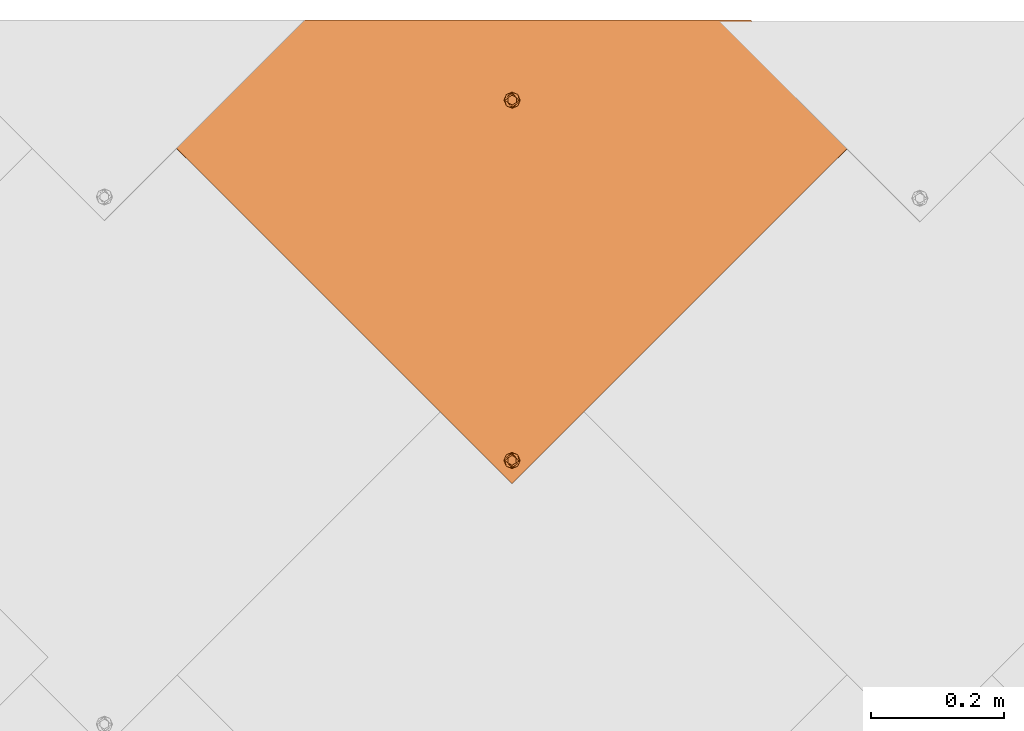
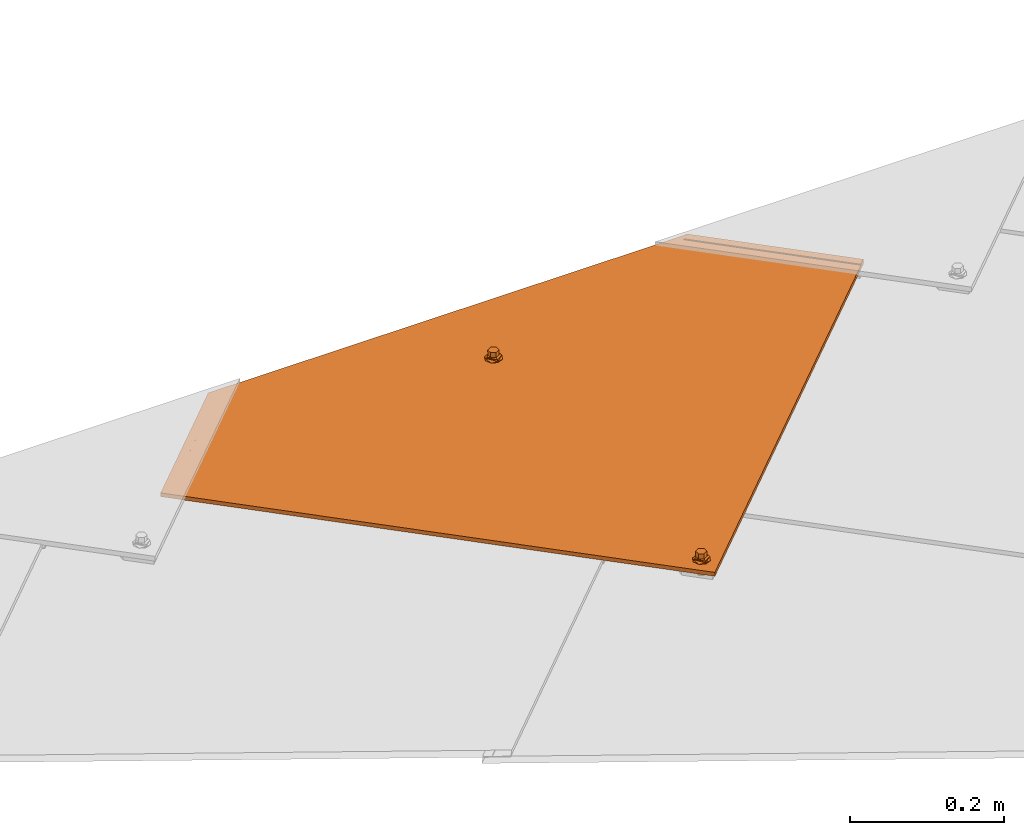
# One storey, part 78 of 133: 1 proxy.
"""IFC2X3 building model written with IfcOpenShell, lengths in millimetres."""

from ifc_helpers import new_model, entity, si_unit, converted_unit, derived_unit, direction, frame, origin, place, context, subcontext, project, spatial, faceted_brep, source, transform, mapped, material, material_list, type_object, type_shapes, element, save


model = new_model("IFC2X3")

# Units and contexts
model_context = context("Model", 3, precision=0.01, world=origin(), true_north=direction((6.12303176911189e-17, 1.0)))
body_context = subcontext(model_context, "Body", "Model", "MODEL_VIEW")
ifc_project = project(units=[si_unit("LENGTHUNIT", "METRE", prefix="MILLI"), si_unit("AREAUNIT", "SQUARE_METRE"), si_unit("VOLUMEUNIT", "CUBIC_METRE"), converted_unit("PLANEANGLEUNIT", "DEGREE", entity("IfcRatioMeasure", 0.0174532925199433), si_unit("PLANEANGLEUNIT", "RADIAN"), dimensions=[0, 0, 0, 0, 0, 0, 0]), si_unit("MASSUNIT", "GRAM", prefix="KILO"), derived_unit("MASSDENSITYUNIT", [(si_unit("MASSUNIT", "GRAM", prefix="KILO"), 1), (si_unit("LENGTHUNIT", "METRE"), -3)]), si_unit("TIMEUNIT", "SECOND"), si_unit("FREQUENCYUNIT", "HERTZ"), si_unit("THERMODYNAMICTEMPERATUREUNIT", "DEGREE_CELSIUS"), derived_unit("THERMALTRANSMITTANCEUNIT", [(si_unit("MASSUNIT", "GRAM", prefix="KILO"), 1), (si_unit("THERMODYNAMICTEMPERATUREUNIT", "KELVIN"), -1), (si_unit("TIMEUNIT", "SECOND"), -3)]), derived_unit("VOLUMETRICFLOWRATEUNIT", [(si_unit("LENGTHUNIT", "METRE"), 3), (si_unit("TIMEUNIT", "SECOND"), -1)]), si_unit("ELECTRICCURRENTUNIT", "AMPERE"), si_unit("ELECTRICVOLTAGEUNIT", "VOLT"), si_unit("POWERUNIT", "WATT"), si_unit("FORCEUNIT", "NEWTON", prefix="KILO"), si_unit("ILLUMINANCEUNIT", "LUX"), si_unit("LUMINOUSFLUXUNIT", "LUMEN"), si_unit("LUMINOUSINTENSITYUNIT", "CANDELA"), derived_unit("USERDEFINED", [(si_unit("MASSUNIT", "GRAM", prefix="KILO"), -1), (si_unit("LENGTHUNIT", "METRE"), -2), (si_unit("TIMEUNIT", "SECOND"), 3), (si_unit("LUMINOUSFLUXUNIT", "LUMEN"), 1)]), derived_unit("LINEARVELOCITYUNIT", [(si_unit("LENGTHUNIT", "METRE"), 1), (si_unit("TIMEUNIT", "SECOND"), -1)]), si_unit("PRESSUREUNIT", "PASCAL"), derived_unit("USERDEFINED", [(si_unit("LENGTHUNIT", "METRE"), -2), (si_unit("MASSUNIT", "GRAM", prefix="KILO"), 1), (si_unit("TIMEUNIT", "SECOND"), -2)])], contexts=[model_context])

# Site, building, storey
site_placement = place(None, origin())
site = spatial("IfcSite", under=ifc_project, at=site_placement, Name="Default", CompositionType="ELEMENT")
building_placement = place(site_placement, origin())
building = spatial("IfcBuilding", under=site, at=building_placement, CompositionType="ELEMENT")
storey_placement = place(building_placement, origin())
storey = spatial("IfcBuildingStorey", under=building, at=storey_placement, Name="Level 1", CompositionType="ELEMENT", Elevation=0.0)

# Proxy
ifc_material_1 = material(Name="Rubber - Sunstyle - Black")
ifc_material_2 = material(Name="Glass - Sunstyle - Tainted Black")
ifc_material_list_1 = material_list([ifc_material_1, ifc_material_2])
ifc_material_list_2 = material_list([ifc_material_1, ifc_material_2])
building_element_proxy_type = type_object("IfcBuildingElementProxyType", Name="Shingle Top - Black", PredefinedType="NOTDEFINED", material=ifc_material_list_2)
shared_shape = source(origin(), body_context, "Body", "Brep", [
    faceted_brep([(-518.396436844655, -96.9865733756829, 16.4476231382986), (-518.396436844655, -96.9614556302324, 17.9474128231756), (-526.881123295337, -88.4767691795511, 17.8053154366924), (-526.881123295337, -88.5018869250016, 16.3055257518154), (-376.996804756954, 61.3404039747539, 13.7960402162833), (-368.512118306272, 52.8557175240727, 13.9381376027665), (-376.996804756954, 61.3655217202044, 15.2958299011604), (-368.512118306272, 52.8808352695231, 15.4379272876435)], [[[0, 1, 2, 3]], [[0, 3, 4, 5]], [[3, 2, 6, 4]], [[2, 1, 7, 6]], [[1, 0, 5, 7]], [[5, 4, 6, 7]]]),
    faceted_brep([(0.166366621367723, -33.6374645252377, -4.47296585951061), (-5.6078362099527, -36.9707346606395, -4.4171418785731), (-5.60783620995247, -36.6024255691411, 17.5747274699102), (0.166366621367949, -33.2691554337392, 17.5189034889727), (-5.60783620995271, -43.6372749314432, -4.30549391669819), (-5.60783620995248, -43.2689658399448, 17.6863754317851), (0.166366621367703, -46.9705450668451, -4.24966993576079), (0.166366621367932, -46.6022359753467, 17.7421994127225), (5.94056945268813, -43.6372749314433, -4.30549391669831), (5.94056945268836, -43.2689658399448, 17.686375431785), (5.94056945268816, -36.9707346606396, -4.41714187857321), (5.94056945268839, -36.6024255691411, 17.5747274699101), (-8.43733754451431, -48.5381935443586, 17.774621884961), (0.16636662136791, -52.1014648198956, 17.8342978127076), (-12.0011084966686, -39.9356957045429, 17.6305514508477), (-8.43733754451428, -31.3331978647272, 17.4864810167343), (0.166366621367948, -27.7699265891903, 17.4268050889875), (8.77007078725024, -31.3331978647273, 17.4864810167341), (12.3338417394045, -39.935695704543, 17.6305514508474), (8.77007078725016, -48.5381935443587, 17.7746218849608), (-11.1578780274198, -37.6406185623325, 19.9433933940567), (-9.59010793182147, -39.8646808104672, 21.8708760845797), (0.166366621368, -32.5516055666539, 22.5035764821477), (0.166366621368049, -31.3111079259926, 21.9232298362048), (0.166366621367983, -29.1535570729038, 20.9138547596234), (0.166366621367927, -51.5454208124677, 19.1093557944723), (0.166366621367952, -50.6018442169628, 21.273060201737), (0.166366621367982, -47.1524685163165, 22.7481046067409), (0.166366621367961, -28.2829626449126, 18.7197675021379), (-6.15687907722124, -43.5022527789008, 22.6869725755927), (-6.15687907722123, -36.2018213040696, 22.5647085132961), (11.4906112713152, -42.1520387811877, 20.0189484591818), (10.0152467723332, -40.9390872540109, 21.7920079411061), (6.48961231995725, -36.2018213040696, 22.564708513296), (6.48961231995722, -43.5022527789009, 22.6869725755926), (-6.15687907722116, -43.3682243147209, 30.68986075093), (0.166366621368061, -47.0184400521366, 30.7509927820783), (0.166366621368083, -39.7180085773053, 30.6287287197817), (-6.15687907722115, -36.0677928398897, 30.5675966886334), (6.48961231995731, -43.368224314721, 30.6898607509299), (6.48961231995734, -36.0677928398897, 30.5675966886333), (0.166366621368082, -32.417577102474, 30.5064646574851), (0.166366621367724, -40.3040047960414, -4.36131789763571)], [[[0, 1, 2, 3]], [[1, 4, 5, 2]], [[4, 6, 7, 5]], [[6, 8, 9, 7]], [[8, 10, 11, 9]], [[10, 0, 3, 11]], [[12, 7, 13]], [[7, 12, 5]], [[14, 5, 12]], [[5, 14, 2]], [[15, 2, 14]], [[3, 2, 15]], [[15, 16, 3]], [[16, 17, 3]], [[11, 3, 17]], [[11, 17, 18]], [[9, 11, 18]], [[18, 19, 9]], [[7, 9, 19]], [[19, 13, 7]], [[20, 14, 12]], [[21, 22, 23, 24]], [[24, 20, 21]], [[25, 20, 12]], [[26, 27, 21]], [[15, 14, 20]], [[12, 13, 25]], [[20, 28, 15]], [[28, 20, 24]], [[21, 27, 29]], [[21, 29, 30]], [[26, 21, 20]], [[20, 25, 26]], [[15, 28, 16]], [[21, 30, 22]], [[31, 18, 17]], [[28, 31, 17]], [[32, 27, 26]], [[26, 31, 32]], [[26, 25, 31]], [[25, 19, 31]], [[17, 16, 28]], [[31, 19, 18]], [[24, 31, 28]], [[33, 34, 32]], [[23, 22, 33]], [[24, 32, 31]], [[27, 32, 34]], [[32, 23, 33]], [[19, 25, 13]], [[32, 24, 23]], [[35, 36, 37]], [[37, 38, 35]], [[36, 39, 37]], [[40, 37, 39]], [[37, 40, 41]], [[37, 41, 38]], [[42, 6, 4]], [[4, 1, 42]], [[1, 0, 42]], [[42, 8, 6]], [[0, 10, 42]], [[8, 42, 10]], [[22, 30, 38, 41]], [[30, 29, 35, 38]], [[29, 27, 36, 35]], [[27, 34, 39, 36]], [[34, 33, 40, 39]], [[33, 22, 41, 40]]]),
    faceted_brep([(0.0, -573.927138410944, 4.00636906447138), (-5.77420283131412, -577.260408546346, 4.0621930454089), (-5.77420283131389, -576.892099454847, 26.0540623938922), (0.0, -573.558829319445, 25.9982384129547), (-5.77420283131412, -583.926948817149, 4.1738410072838), (-5.7742028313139, -583.558639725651, 26.1657103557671), (0.0, -587.260218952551, 4.2296649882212), (0.0, -586.891909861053, 26.2215343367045), (5.77420283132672, -583.926948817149, 4.17384100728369), (5.77420283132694, -583.558639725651, 26.165710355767), (5.77420283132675, -577.260408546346, 4.06219304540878), (5.77420283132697, -576.892099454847, 26.0540623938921), (-8.60370416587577, -588.827867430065, 26.253956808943), (0.0, -592.391138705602, 26.3136327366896), (-12.1674751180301, -580.225369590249, 26.1098863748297), (-8.60370416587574, -571.622871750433, 25.9658159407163), (0.0, -568.059600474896, 25.9061400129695), (8.60370416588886, -571.622871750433, 25.9658159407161), (12.1674751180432, -580.225369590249, 26.1098863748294), (8.60370416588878, -588.827867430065, 26.2539568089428), (-11.3242446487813, -577.930292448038, 28.4227283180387), (-9.75647455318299, -580.154354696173, 30.3502110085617), (0.0, -572.84127945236, 30.9829114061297), (0.0, -571.600781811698, 30.4025647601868), (0.0, -569.44323095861, 29.3931896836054), (0.0, -591.835094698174, 27.5886907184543), (0.0, -590.891518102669, 29.752395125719), (0.0, -587.442142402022, 31.227439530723), (0.0, -568.572636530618, 27.1991024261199), (-6.32324569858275, -583.791926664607, 31.1663074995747), (-6.32324569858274, -576.491495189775, 31.0440434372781), (11.3242446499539, -582.441712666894, 28.4982833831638), (9.84888015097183, -581.228761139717, 30.2713428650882), (6.32324569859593, -576.491495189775, 31.044043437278), (6.32324569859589, -583.791926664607, 31.1663074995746), (-6.32324569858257, -583.657898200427, 39.169195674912), (0.0, -587.308113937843, 39.2303277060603), (0.0, -580.007682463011, 39.1080636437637), (-6.32324569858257, -576.357466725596, 39.0469316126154), (6.32324569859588, -583.657898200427, 39.1691956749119), (6.32324569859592, -576.357466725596, 39.0469316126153), (0.0, -572.70725098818, 38.9857995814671), (0.0, -580.593678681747, 4.11801702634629)], [[[0, 1, 2, 3]], [[1, 4, 5, 2]], [[4, 6, 7, 5]], [[6, 8, 9, 7]], [[8, 10, 11, 9]], [[10, 0, 3, 11]], [[12, 7, 13]], [[7, 12, 5]], [[14, 5, 12]], [[5, 14, 2]], [[15, 2, 14]], [[3, 2, 15]], [[15, 16, 3]], [[16, 17, 3]], [[11, 3, 17]], [[11, 17, 18]], [[9, 11, 18]], [[18, 19, 9]], [[7, 9, 19]], [[19, 13, 7]], [[20, 14, 12]], [[21, 22, 23, 24]], [[24, 20, 21]], [[25, 20, 12]], [[26, 27, 21]], [[15, 14, 20]], [[12, 13, 25]], [[20, 28, 15]], [[28, 20, 24]], [[21, 27, 29]], [[21, 29, 30]], [[26, 21, 20]], [[20, 25, 26]], [[15, 28, 16]], [[21, 30, 22]], [[31, 18, 17]], [[28, 31, 17]], [[32, 27, 26]], [[26, 31, 32]], [[26, 25, 31]], [[25, 19, 31]], [[17, 16, 28]], [[31, 19, 18]], [[24, 31, 28]], [[33, 34, 32]], [[23, 22, 33]], [[24, 32, 31]], [[27, 32, 34]], [[32, 23, 33]], [[19, 25, 13]], [[32, 24, 23]], [[35, 36, 37]], [[37, 38, 35]], [[36, 39, 37]], [[40, 37, 39]], [[37, 40, 41]], [[37, 41, 38]], [[42, 6, 4]], [[4, 1, 42]], [[1, 0, 42]], [[42, 8, 6]], [[0, 10, 42]], [[8, 42, 10]], [[22, 30, 38, 41]], [[30, 29, 35, 38]], [[29, 27, 36, 35]], [[27, 34, 39, 36]], [[34, 33, 40, 39]], [[33, 22, 41, 40]]]),
    faceted_brep([(518.482751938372, -96.8754983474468, 17.9260478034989), (526.967438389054, -88.3908118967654, 17.7839504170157), (526.967438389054, -88.3656941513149, 19.2837401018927), (518.482751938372, -96.8503806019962, 19.4258374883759), (349.749400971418, 71.8105397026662, 15.1009763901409), (358.234087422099, 80.2952261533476, 14.9588790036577), (358.234087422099, 80.3203438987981, 16.4586686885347), (349.749400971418, 71.8356574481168, 16.6007660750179)], [[[0, 1, 2, 3]], [[1, 0, 4, 5]], [[2, 1, 5, 6]], [[3, 2, 6, 7]], [[0, 3, 7, 4]], [[4, 7, 6, 5]]]),
    faceted_brep([(358.234087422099, 80.2952261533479, 14.9588790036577), (6.94661128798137, -35.8890860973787, 16.9046771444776), (7.74581466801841, -37.8182632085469, 16.9369860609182), (5.67526230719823, -34.2324641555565, 16.8769328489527), (8.01840805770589, -39.8885252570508, 16.9716577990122), (7.74581466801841, -41.9587873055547, 17.0063295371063), (6.94661128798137, -43.8879644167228, 17.0386384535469), (526.967438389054, -88.3908118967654, 17.7839504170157), (4.01840805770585, -32.9612934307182, 16.855643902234), (2.08896041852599, -32.1622021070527, 16.8422611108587), (0.0184080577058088, -31.8896469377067, 16.8376964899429), (-358.233442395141, 80.2952261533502, 14.9588790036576), (-2.05214430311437, -32.1622021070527, 16.8422611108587), (-3.98159194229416, -32.9612934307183, 16.855643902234), (-5.63844619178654, -34.2324641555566, 16.8769328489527), (-6.90979517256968, -35.8890860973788, 16.9046771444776), (-7.70899855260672, -37.8182632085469, 16.9369860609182), (-7.98159194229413, -39.8885252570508, 16.9716577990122), (-7.70899855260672, -41.9587873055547, 17.0063295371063), (-6.90979517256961, -43.8879644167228, 17.0386384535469), (-526.966793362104, -88.390811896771, 17.7839504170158), (-5.63844619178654, -45.544586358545, 17.0663827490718), (-5.6568542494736, -574.226981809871, 25.9204974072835), (-6.92820323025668, -575.883603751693, 25.9482417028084), (-7.72740661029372, -577.812780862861, 25.980550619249), (-8.0, -579.883042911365, 26.015222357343), (-7.72740661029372, -581.953304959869, 26.049894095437), (0.000322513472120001, -615.210165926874, 26.6068637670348), (7.72740661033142, -581.953304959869, 26.049894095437), (6.92820323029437, -583.882482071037, 26.0822030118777), (5.65685424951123, -585.53910401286, 26.1099473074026), (4.0, -586.810274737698, 26.1312362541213), (2.070552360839, -587.609366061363, 26.1446190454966), (0.0, -587.881921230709, 26.1491836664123), (-2.0705523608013, -587.609366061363, 26.1446190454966), (-4.0, -586.810274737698, 26.1312362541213), (-5.65685424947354, -585.53910401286, 26.1099473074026), (-6.92820323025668, -583.882482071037, 26.0822030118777), (-4.0, -572.955811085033, 25.8992084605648), (-3.98159194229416, -46.8157570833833, 17.0876716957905), (-2.07055236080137, -572.156719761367, 25.8858256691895), (-2.05214430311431, -47.614848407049, 17.1010544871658), (0.0, -571.884164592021, 25.8812610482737), (0.0184080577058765, -47.8874035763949, 17.1056191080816), (2.07055236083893, -572.156719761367, 25.8858256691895), (2.08896041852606, -47.6148484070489, 17.1010544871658), (4.0, -572.955811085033, 25.8992084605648), (4.01840805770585, -46.8157570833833, 17.0876716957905), (5.65685424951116, -574.226981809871, 25.9204974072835), (5.67526230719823, -45.544586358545, 17.0663827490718), (6.92820323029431, -575.883603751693, 25.9482417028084), (7.72740661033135, -577.812780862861, 25.980550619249), (8.0, -579.883042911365, 26.015222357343), (-358.233442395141, 80.1947551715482, 8.9597202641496), (-6.90979517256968, -35.9895570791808, 10.9055184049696), (-7.70899855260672, -37.9187341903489, 10.9378273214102), (-5.63844619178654, -34.3329351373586, 10.8777741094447), (-7.98159194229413, -39.9889962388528, 10.9724990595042), (-7.70899855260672, -42.0592582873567, 11.0071707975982), (-6.90979517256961, -43.9884353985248, 11.0394797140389), (-526.966793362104, -88.4912828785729, 11.7847916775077), (-3.98159194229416, -33.0617644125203, 10.856485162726), (-2.05214430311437, -32.2626730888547, 10.8431023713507), (0.0184080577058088, -31.9901179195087, 10.8385377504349), (358.234087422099, 80.1947551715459, 8.95972026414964), (2.08896041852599, -32.2626730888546, 10.8431023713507), (4.01840805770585, -33.0617644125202, 10.856485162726), (5.67526230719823, -34.3329351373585, 10.8777741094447), (6.94661128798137, -35.9895570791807, 10.9055184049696), (7.74581466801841, -37.9187341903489, 10.9378273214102), (8.01840805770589, -39.9889962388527, 10.9724990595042), (7.74581466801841, -42.0592582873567, 11.0071707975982), (6.94661128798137, -43.9884353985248, 11.0394797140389), (526.967438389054, -88.4912828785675, 11.7847916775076), (5.67526230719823, -45.645057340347, 11.0672240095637), (5.65685424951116, -574.327452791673, 19.9213386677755), (6.92820323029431, -575.984074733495, 19.9490829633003), (7.72740661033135, -577.913251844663, 19.981391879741), (8.0, -579.983513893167, 20.016063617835), (7.72740661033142, -582.053775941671, 20.050735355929), (0.000322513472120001, -615.310636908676, 20.6077050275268), (-7.72740661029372, -582.053775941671, 20.050735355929), (-6.92820323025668, -583.982953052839, 20.0830442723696), (-5.65685424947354, -585.639574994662, 20.1107885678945), (-4.0, -586.9107457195, 20.1320775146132), (-2.0705523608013, -587.709837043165, 20.1454603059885), (0.0, -587.982392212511, 20.1500249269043), (2.070552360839, -587.709837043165, 20.1454603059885), (4.0, -586.9107457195, 20.1320775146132), (5.65685424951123, -585.639574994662, 20.1107885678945), (6.92820323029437, -583.982953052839, 20.0830442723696), (4.01840805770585, -46.9162280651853, 11.0885129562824), (4.0, -573.056282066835, 19.9000497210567), (2.08896041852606, -47.7153193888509, 11.1018957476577), (2.07055236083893, -572.257190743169, 19.8866669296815), (0.0184080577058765, -47.9878745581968, 11.1064603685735), (0.0, -571.984635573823, 19.8821023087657), (-2.05214430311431, -47.7153193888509, 11.1018957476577), (-2.07055236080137, -572.257190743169, 19.8866669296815), (-3.98159194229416, -46.9162280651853, 11.0885129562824), (-4.0, -573.056282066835, 19.9000497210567), (-5.63844619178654, -45.645057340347, 11.0672240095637), (-5.6568542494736, -574.327452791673, 19.9213386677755), (-6.92820323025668, -575.984074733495, 19.9490829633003), (-7.72740661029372, -577.913251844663, 19.981391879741), (-8.0, -579.983513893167, 20.016063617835)], [[[0, 1, 2]], [[1, 0, 3]], [[0, 2, 4]], [[4, 5, 0]], [[5, 6, 0]], [[7, 0, 6]], [[8, 3, 0]], [[9, 8, 0]], [[10, 9, 0]], [[0, 11, 10]], [[12, 10, 11]], [[13, 12, 11]], [[14, 13, 11]], [[11, 15, 14]], [[15, 11, 16]], [[16, 11, 17]], [[11, 18, 17]], [[18, 11, 19]], [[11, 20, 19]], [[19, 20, 21]], [[20, 22, 21]], [[23, 22, 20]], [[24, 23, 20]], [[24, 20, 25]], [[26, 25, 20]], [[27, 26, 20]], [[7, 28, 27]], [[29, 27, 28]], [[27, 29, 30]], [[30, 31, 27]], [[31, 32, 27]], [[27, 32, 33]], [[27, 33, 34]], [[34, 35, 27]], [[27, 35, 36]], [[36, 37, 27]], [[37, 26, 27]], [[38, 21, 22]], [[38, 39, 21]], [[38, 40, 39]], [[40, 41, 39]], [[40, 42, 41]], [[41, 42, 43]], [[44, 43, 42]], [[44, 45, 43]], [[45, 44, 46]], [[46, 47, 45]], [[46, 48, 47]], [[48, 49, 47]], [[50, 7, 48]], [[48, 7, 49]], [[7, 50, 51]], [[7, 51, 52]], [[52, 28, 7]], [[7, 6, 49]], [[53, 54, 55]], [[54, 53, 56]], [[53, 55, 57]], [[58, 53, 57]], [[59, 53, 58]], [[60, 53, 59]], [[61, 56, 53]], [[62, 61, 53]], [[53, 63, 62]], [[63, 53, 64]], [[65, 63, 64]], [[66, 65, 64]], [[64, 67, 66]], [[67, 64, 68]], [[68, 64, 69]], [[70, 69, 64]], [[71, 70, 64]], [[72, 71, 64]], [[72, 64, 73]], [[72, 73, 74]], [[74, 73, 75]], [[73, 76, 75]], [[76, 73, 77]], [[77, 73, 78]], [[79, 78, 73]], [[79, 73, 80]], [[60, 81, 80]], [[80, 81, 82]], [[80, 82, 83]], [[83, 84, 80]], [[84, 85, 80]], [[85, 86, 80]], [[80, 86, 87]], [[80, 87, 88]], [[80, 88, 89]], [[79, 80, 90]], [[80, 89, 90]], [[75, 91, 74]], [[75, 92, 91]], [[92, 93, 91]], [[93, 92, 94]], [[93, 94, 95]], [[96, 95, 94]], [[97, 95, 96]], [[96, 98, 97]], [[98, 99, 97]], [[98, 100, 99]], [[100, 101, 99]], [[100, 102, 101]], [[60, 101, 102]], [[103, 60, 102]], [[103, 104, 60]], [[104, 105, 60]], [[105, 81, 60]], [[59, 101, 60]], [[27, 20, 60, 80]], [[7, 27, 80, 73]], [[0, 7, 73, 64]], [[25, 105, 104, 24]], [[24, 104, 103, 23]], [[38, 22, 102, 100]], [[102, 22, 23, 103]], [[40, 38, 100, 98]], [[40, 98, 96, 42]], [[42, 96, 94, 44]], [[44, 94, 92, 46]], [[50, 48, 75, 76]], [[75, 48, 46, 92]], [[51, 50, 76, 77]], [[51, 77, 78, 52]], [[52, 78, 79, 28]], [[28, 79, 90, 29]], [[31, 30, 89, 88]], [[29, 90, 89, 30]], [[87, 32, 31, 88]], [[32, 87, 86, 33]], [[34, 33, 86, 85]], [[34, 85, 84, 35]], [[37, 36, 83, 82]], [[35, 84, 83, 36]], [[37, 82, 81, 26]], [[26, 81, 105, 25]], [[17, 57, 55, 16]], [[16, 55, 54, 15]], [[13, 14, 56, 61]], [[56, 14, 15, 54]], [[12, 13, 61, 62]], [[12, 62, 63, 10]], [[10, 63, 65, 9]], [[9, 65, 66, 8]], [[1, 3, 67, 68]], [[67, 3, 8, 66]], [[2, 1, 68, 69]], [[2, 69, 70, 4]], [[4, 70, 71, 5]], [[5, 71, 72, 6]], [[47, 49, 74, 91]], [[74, 49, 6, 72]], [[45, 47, 91, 93]], [[45, 93, 95, 43]], [[43, 95, 97, 41]], [[41, 97, 99, 39]], [[19, 21, 101, 59]], [[101, 21, 39, 99]], [[18, 19, 59, 58]], [[18, 58, 57, 17]], [[11, 0, 64, 53]], [[20, 11, 53, 60]]]),
])
type_shapes(building_element_proxy_type, [shared_shape])
proxy_placement = place(storey_placement, frame((-17764.4246150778, 16738.2015304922, 0.0)))
element("IfcBuildingElementProxy", 1, at=proxy_placement, inside=storey, type_object=building_element_proxy_type, material=ifc_material_list_1, Name="Roofing_Panels_SunStyle_Tile_Shingle-Top:Shingle Top - Black", ObjectType="Roofing_Panels_SunStyle_Tile_Shingle-Top:Shingle Top - Black", context=body_context, shape_type="MappedRepresentation", body=[
    mapped(shared_shape, transform((0.0, 0.0, 0.0), scale=1.0)),
])

save(model, "model.ifc")
